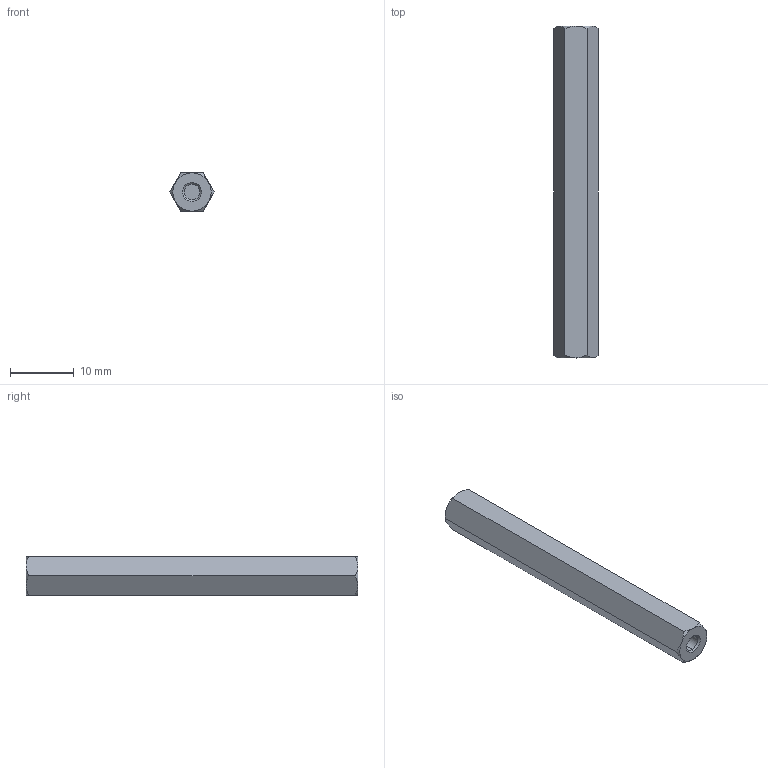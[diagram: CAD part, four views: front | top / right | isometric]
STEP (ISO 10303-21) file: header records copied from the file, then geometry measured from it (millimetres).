
FILE_DESCRIPTION(/* description */ ('VariCAD 2010-3.03 AP-214'),/* implementation_level */ '2;1');
FILE_NAME(/* name */ '0353-90-10',/* time_stamp */ '2011-01-20T16:21:08-07:00',/* author */ (''),/* organization */ (''),/* preprocessor_version */ 'ST-DEVELOPER v12',/* originating_system */ 'VariCAD 2010-3.03; kernel version (20100102)',/* authorisation */ '');
FILE_SCHEMA (('AUTOMOTIVE_DESIGN'));
Length unit declared in the file: millimetre
Products named in the file (1): Part
Bounding box: 6.93 x 52 x 6 mm (x, y, z)
Volume: 1543.8 mm3; surface area: 1507.1 mm2
Topology: 3 solids, 3 shells, 54 faces, 110 edges, 64 vertices
Faces by surface type: cone 24, cylinder 16, plane 14
Entity records: 1427 total; most frequent: CARTESIAN_POINT 280, DIRECTION 182, ORIENTED_EDGE 164, EDGE_CURVE 82, AXIS2_PLACEMENT_3D 78, VERTEX_POINT 52, EDGE_LOOP 44, PRESENTATION_STYLE_ASSIGNMENT 41
